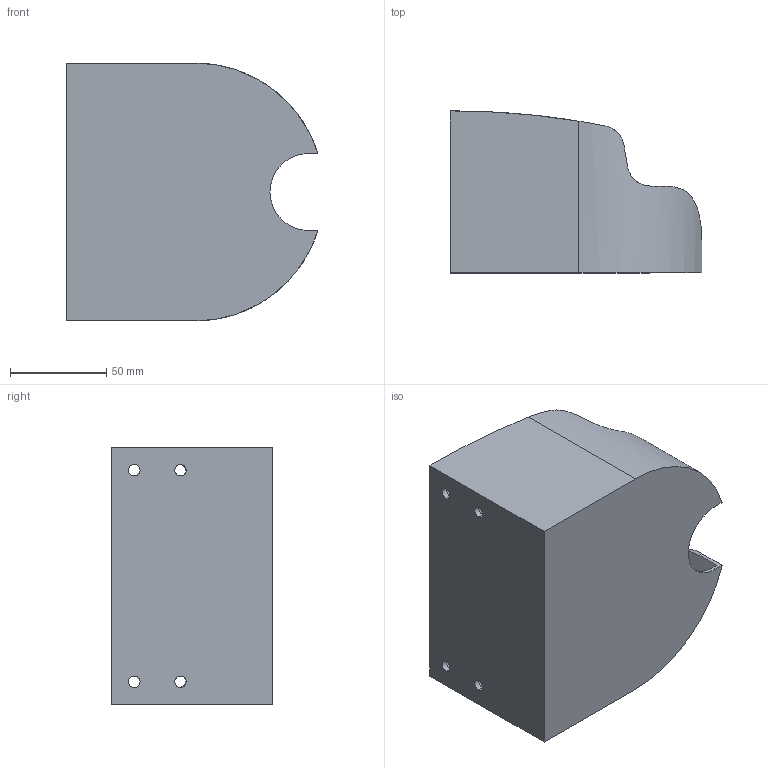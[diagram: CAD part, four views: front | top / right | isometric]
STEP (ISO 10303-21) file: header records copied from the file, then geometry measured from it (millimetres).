
FILE_DESCRIPTION (( 'STEP AP214' ), '1' );
FILE_NAME ('125mm grinding disc holder CC12 pegboard_2-0.STEP', '2025-12-14T20:12:50', ( '' ), ( '' ), 'SwSTEP 2.0', 'SolidWorks 2025', '' );
FILE_SCHEMA (( 'AUTOMOTIVE_DESIGN' ));
Length unit declared in the file: millimetre
Products named in the file (1): 125mm grinding disc holder CC12 pegboard_2-0
Bounding box: 130.95 x 84 x 134 mm (x, y, z)
Volume: 189452.3 mm3; surface area: 89994 mm2
Topology: 1 solids, 1 shells, 62 faces, 173 edges, 113 vertices
Faces by surface type: cylinder 32, plane 20, cone 8, torus 2
Entity records: 2511 total; most frequent: CARTESIAN_POINT 915, ORIENTED_EDGE 346, DIRECTION 310, EDGE_CURVE 173, AXIS2_PLACEMENT_3D 116, VERTEX_POINT 113, VECTOR 78, LINE 78
